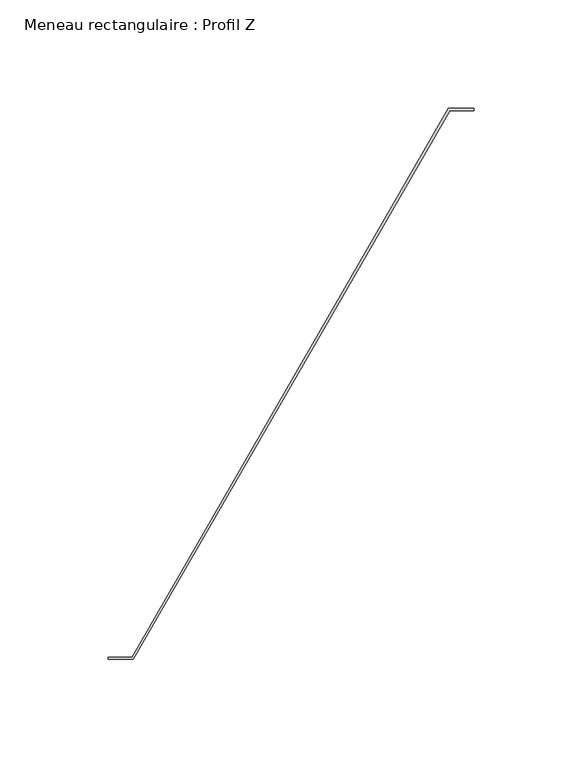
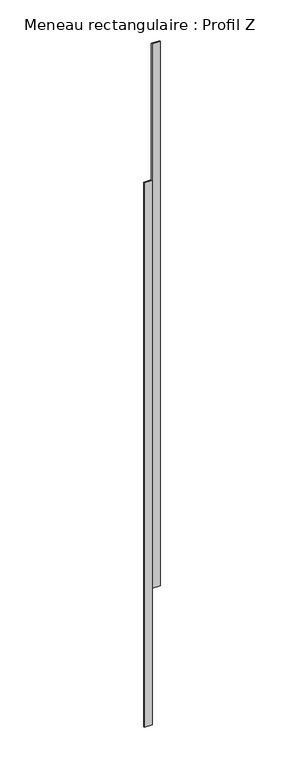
"""IFC4 building model written with IfcOpenShell, lengths in millimetres: member geometry, Meneau rectangulaire : Profil Z."""

from ifc_helpers import new_model, si_unit, frame, origin, place, context, project, spatial, polyline, outline, extrude, source, transform, mapped, element, save


def meneau_rectangulaire_profil_z_c473e54d(model_context):
    return source(origin(), model_context, "Body", "SweptSolid", [
        extrude(outline(polyline([(72.7461339, 87.0), (84.2931393, 87.0), (84.2931393, 86.0), (73.3234842, 86.0), (-72.7461339, -167.0), (-84.2931393, -167.0), (-84.2931393, -166.0), (-73.3234842, -166.0), (72.7461339, 87.0)])), frame((0.0, 0.0, -816.3), z_axis=(0.0, 0.0, 1.0), x_axis=(1.0, 0.0, 0.0)), (0.0, 0.0, 1.0), 816.3),
    ])


if __name__ == "__main__":
    model = new_model("IFC4")
    model_context = context("Model", 3, world=origin())
    ifc_project = project(units=[si_unit("LENGTHUNIT", "METRE", prefix="MILLI")], contexts=[model_context])
    site = spatial("IfcSite", under=ifc_project)
    building = spatial("IfcBuilding", under=site)
    placement = place(None, origin())
    meneau_rectangulaire_profil_z_shape = meneau_rectangulaire_profil_z_c473e54d(model_context)
    element("IfcMember", 1, ObjectType="Meneau rectangulaire : Profil Z", at=placement, inside=building, context=model_context, shape_type="MappedRepresentation", body=[
        mapped(meneau_rectangulaire_profil_z_shape, transform((0.0, 0.0, 0.0), x_axis=(1.0, 0.0, 0.0), y_axis=(0.0, 1.0, 0.0), z_axis=(0.0, 0.0, 1.0))),
    ])
    save(model, "model.ifc")
